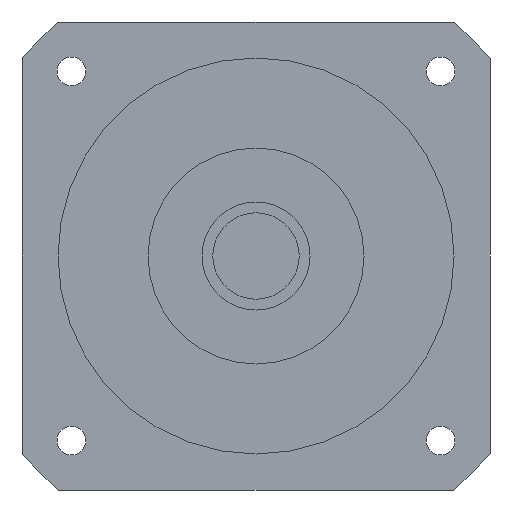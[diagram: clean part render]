
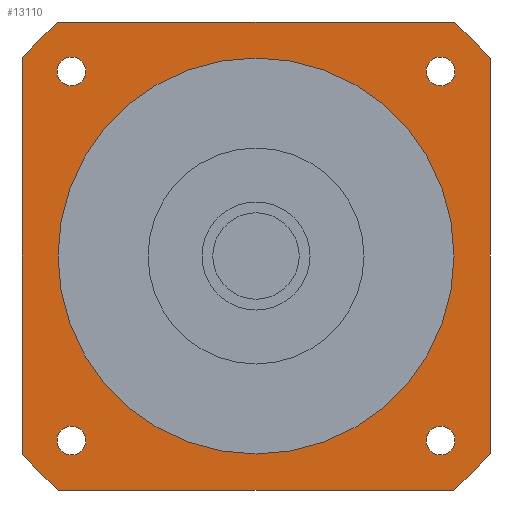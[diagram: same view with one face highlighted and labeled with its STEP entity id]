
A CAD part, left-side view. The second image highlights one B-rep face of the part: STEP entity #13110.
In plain terms, the highlighted planar face has unit normal (-1, 0, 0) as drawn and (0, 0, -1) by its records, which use the part's own axes.
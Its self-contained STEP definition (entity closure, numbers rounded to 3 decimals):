
#8880=CARTESIAN_POINT('',(47.265,-51.265,-84.4));
#8890=VERTEX_POINT('',#8880);
#8920=CARTESIAN_POINT('',(51.265,-51.265,-84.4));
#8930=DIRECTION('',(0.,0.,-1.));
#8940=DIRECTION('',(1.,0.,0.));
#8950=AXIS2_PLACEMENT_3D('',#8920,#8930,#8940);
#8960=CIRCLE('',#8950,4.);
#8970=CARTESIAN_POINT('',(55.265,-51.265,-84.4));
#8980=VERTEX_POINT('',#8970);
#8990=EDGE_CURVE('',#8980,#8890,#8960,.T.);
#9230=CARTESIAN_POINT('',(65.,-54.772,-84.4));
#9240=VERTEX_POINT('',#9230);
#9290=CARTESIAN_POINT('',(0.,0.,
-84.4));
#9300=DIRECTION('',(0.,0.,-1.));
#9310=DIRECTION('',(1.,0.,0.));
#9320=AXIS2_PLACEMENT_3D('',#9290,#9300,#9310);
#9330=CIRCLE('',#9320,85.);
#9340=CARTESIAN_POINT('',(54.772,-65.,-84.4));
#9350=VERTEX_POINT('',#9340);
#9360=EDGE_CURVE('',#9240,#9350,#9330,.T.);
#11640=CARTESIAN_POINT('',(-51.265,-47.265,-84.4));
#11650=VERTEX_POINT('',#11640);
#11680=CARTESIAN_POINT('',(-51.265,-51.265,-84.4));
#11690=DIRECTION('',(0.,0.,-1.));
#11700=DIRECTION('',(0.,-1.,0.));
#11710=AXIS2_PLACEMENT_3D('',#11680,#11690,#11700);
#11720=CIRCLE('',#11710,4.);
#11730=CARTESIAN_POINT('',(-51.265,-55.265,-84.4));
#11740=VERTEX_POINT('',#11730);
#11750=EDGE_CURVE('',#11740,#11650,#11720,.T.);
#11870=CARTESIAN_POINT('',(65.,65.,-84.4));
#11880=DIRECTION('',(0.,0.,-1.));
#11890=DIRECTION('',(1.,0.,0.));
#11900=AXIS2_PLACEMENT_3D('',#11870,#11880,#11890);
#11910=PLANE('',#11900);
#11920=ORIENTED_EDGE('',*,*,#11750,.F.);
#11930=EDGE_CURVE('',#11650,#11740,#11720,.T.);
#11940=ORIENTED_EDGE('',*,*,#11930,.F.);
#11950=EDGE_LOOP('',(#11940,#11920));
#11960=FACE_BOUND('',#11950,.T.);
#11970=CARTESIAN_POINT('',(-51.265,51.265,-84.4));
#11980=DIRECTION('',(0.,0.,-1.));
#11990=DIRECTION('',(-1.,0.,0.));
#12000=AXIS2_PLACEMENT_3D('',#11970,#11980,#11990);
#12010=CIRCLE('',#12000,4.);
#12020=CARTESIAN_POINT('',(-55.265,51.265,-84.4));
#12030=VERTEX_POINT('',#12020);
#12040=CARTESIAN_POINT('',(-47.265,51.265,-84.4));
#12050=VERTEX_POINT('',#12040);
#12060=EDGE_CURVE('',#12030,#12050,#12010,.T.);
#12070=ORIENTED_EDGE('',*,*,#12060,.F.);
#12080=EDGE_CURVE('',#12050,#12030,#12010,.T.);
#12090=ORIENTED_EDGE('',*,*,#12080,.F.);
#12100=EDGE_LOOP('',(#12090,#12070));
#12110=FACE_BOUND('',#12100,.T.);
#12120=CARTESIAN_POINT('',(51.265,51.265,-84.4));
#12130=DIRECTION('',(0.,0.,-1.));
#12140=DIRECTION('',(0.,1.,0.));
#12150=AXIS2_PLACEMENT_3D('',#12120,#12130,#12140);
#12160=CIRCLE('',#12150,4.);
#12170=CARTESIAN_POINT('',(51.265,55.265,-84.4));
#12180=VERTEX_POINT('',#12170);
#12190=CARTESIAN_POINT('',(51.265,47.265,-84.4));
#12200=VERTEX_POINT('',#12190);
#12210=EDGE_CURVE('',#12180,#12200,#12160,.T.);
#12220=ORIENTED_EDGE('',*,*,#12210,.F.);
#12230=EDGE_CURVE('',#12200,#12180,#12160,.T.);
#12240=ORIENTED_EDGE('',*,*,#12230,.F.);
#12250=EDGE_LOOP('',(#12240,#12220));
#12260=FACE_BOUND('',#12250,.T.);
#12270=CARTESIAN_POINT('',(0.,0.,
-84.4));
#12280=DIRECTION('',(0.,0.,1.));
#12290=DIRECTION('',(0.,1.,0.));
#12300=AXIS2_PLACEMENT_3D('',#12270,#12280,#12290);
#12310=CIRCLE('',#12300,55.);
#12320=CARTESIAN_POINT('',(-55.,0.,-84.4));
#12330=VERTEX_POINT('',#12320);
#12340=CARTESIAN_POINT('',(55.,0.,-84.4));
#12350=VERTEX_POINT('',#12340);
#12360=EDGE_CURVE('',#12330,#12350,#12310,.T.);
#12370=ORIENTED_EDGE('',*,*,#12360,.T.);
#12380=CARTESIAN_POINT('',(0.,55.,-84.4));
#12390=VERTEX_POINT('',#12380);
#12400=EDGE_CURVE('',#12390,#12330,#12310,.T.);
#12410=ORIENTED_EDGE('',*,*,#12400,.T.);
#12420=EDGE_CURVE('',#12350,#12390,#12310,.T.);
#12430=ORIENTED_EDGE('',*,*,#12420,.T.);
#12440=EDGE_LOOP('',(#12430,#12410,#12370));
#12450=FACE_BOUND('',#12440,.T.);
#12460=CARTESIAN_POINT('',(-65.,65.,-84.4));
#12470=DIRECTION('',(1.,0.,0.));
#12480=VECTOR('',#12470,1000.);
#12490=LINE('',#12460,#12480);
#12500=CARTESIAN_POINT('',(-54.772,65.,-84.4));
#12510=VERTEX_POINT('',#12500);
#12520=CARTESIAN_POINT('',(54.772,65.,-84.4));
#12530=VERTEX_POINT('',#12520);
#12540=EDGE_CURVE('',#12510,#12530,#12490,.T.);
#12550=ORIENTED_EDGE('',*,*,#12540,.T.);
#12560=CARTESIAN_POINT('',(0.,0.,
-84.4));
#12570=DIRECTION('',(0.,0.,-1.));
#12580=DIRECTION('',(1.,0.,0.));
#12590=AXIS2_PLACEMENT_3D('',#12560,#12570,#12580);
#12600=CIRCLE('',#12590,85.);
#12610=CARTESIAN_POINT('',(-65.,54.772,-84.4));
#12620=VERTEX_POINT('',#12610);
#12630=EDGE_CURVE('',#12620,#12510,#12600,.T.);
#12640=ORIENTED_EDGE('',*,*,#12630,.T.);
#12650=CARTESIAN_POINT('',(-65.,-65.,-84.4));
#12660=DIRECTION('',(0.,1.,0.));
#12670=VECTOR('',#12660,1000.);
#12680=LINE('',#12650,#12670);
#12690=CARTESIAN_POINT('',(-65.,-54.772,-84.4));
#12700=VERTEX_POINT('',#12690);
#12710=EDGE_CURVE('',#12700,#12620,#12680,.T.);
#12720=ORIENTED_EDGE('',*,*,#12710,.T.);
#12730=CARTESIAN_POINT('',(0.,0.,
-84.4));
#12740=DIRECTION('',(0.,0.,-1.));
#12750=DIRECTION('',(1.,0.,0.));
#12760=AXIS2_PLACEMENT_3D('',#12730,#12740,#12750);
#12770=CIRCLE('',#12760,85.);
#12780=CARTESIAN_POINT('',(-54.772,-65.,-84.4));
#12790=VERTEX_POINT('',#12780);
#12800=EDGE_CURVE('',#12790,#12700,#12770,.T.);
#12810=ORIENTED_EDGE('',*,*,#12800,.T.);
#12820=CARTESIAN_POINT('',(65.,-65.,-84.4));
#12830=DIRECTION('',(-1.,0.,0.));
#12840=VECTOR('',#12830,1000.);
#12850=LINE('',#12820,#12840);
#12860=EDGE_CURVE('',#9350,#12790,#12850,.T.);
#12870=ORIENTED_EDGE('',*,*,#12860,.T.);
#12880=ORIENTED_EDGE('',*,*,#9360,.T.);
#12890=CARTESIAN_POINT('',(65.,65.,-84.4));
#12900=DIRECTION('',(0.,-1.,0.));
#12910=VECTOR('',#12900,1000.);
#12920=LINE('',#12890,#12910);
#12930=CARTESIAN_POINT('',(65.,54.772,-84.4));
#12940=VERTEX_POINT('',#12930);
#12950=EDGE_CURVE('',#12940,#9240,#12920,.T.);
#12960=ORIENTED_EDGE('',*,*,#12950,.T.);
#12970=CARTESIAN_POINT('',(0.,0.,
-84.4));
#12980=DIRECTION('',(0.,0.,-1.));
#12990=DIRECTION('',(1.,0.,0.));
#13000=AXIS2_PLACEMENT_3D('',#12970,#12980,#12990);
#13010=CIRCLE('',#13000,85.);
#13020=EDGE_CURVE('',#12530,#12940,#13010,.T.);
#13030=ORIENTED_EDGE('',*,*,#13020,.T.);
#13040=EDGE_LOOP('',(#13030,#12960,#12880,#12870,#12810,#12720,#12640,
#12550));
#13050=FACE_OUTER_BOUND('',#13040,.T.);
#13060=ORIENTED_EDGE('',*,*,#8990,.F.);
#13070=EDGE_CURVE('',#8890,#8980,#8960,.T.);
#13080=ORIENTED_EDGE('',*,*,#13070,.F.);
#13090=EDGE_LOOP('',(#13080,#13060));
#13100=FACE_BOUND('',#13090,.T.);
#13110=ADVANCED_FACE('',(#11960,#12110,#12260,#12450,#13050,#13100),
#11910,.T.);
